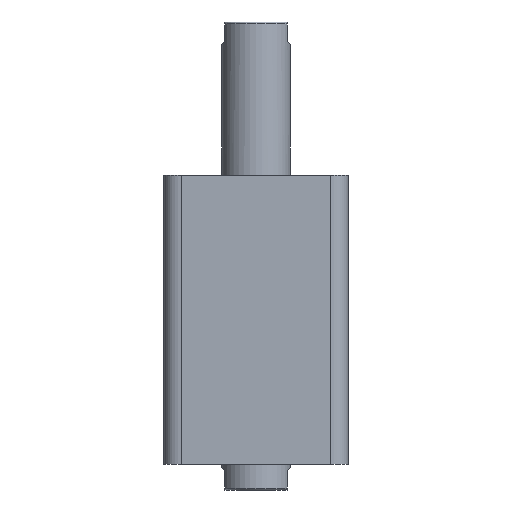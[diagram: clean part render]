
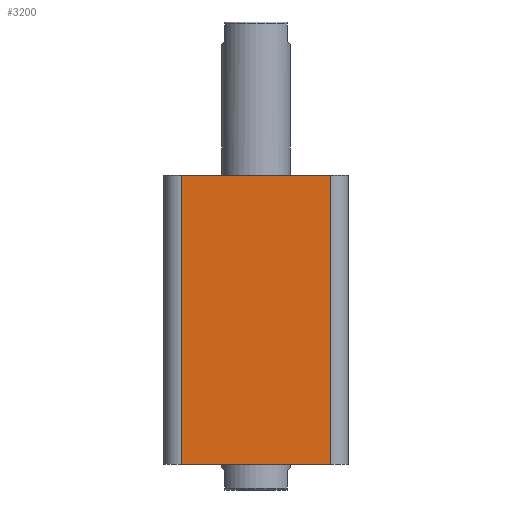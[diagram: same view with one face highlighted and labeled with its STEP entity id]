
A CAD part, front view. The second image highlights one B-rep face of the part: STEP entity #3200.
In plain terms, the highlighted planar face has unit normal (0, -1, 0).
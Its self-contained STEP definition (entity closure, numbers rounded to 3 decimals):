
#42 = VERTEX_POINT ( 'NONE', #68 ) ;
#56 = EDGE_CURVE ( 'NONE', #473, #431, #1359, .T. ) ;
#58 = EDGE_CURVE ( 'NONE', #42, #473, #1366, .T. ) ;
#68 = CARTESIAN_POINT ( 'NONE',  ( -38., -47., 0. ) ) ;
#79 = DIRECTION ( 'NONE',  ( 0., 0., 1. ) ) ;
#86 = CARTESIAN_POINT ( 'NONE',  ( 38., -47., 147. ) ) ;
#90 = DIRECTION ( 'NONE',  ( 1., 0., 0. ) ) ;
#91 = CARTESIAN_POINT ( 'NONE',  ( -47., -47., 0. ) ) ;
#166 = CARTESIAN_POINT ( 'NONE',  ( 38., -47., 147. ) ) ;
#192 = CARTESIAN_POINT ( 'NONE',  ( -38., -47., 147. ) ) ;
#244 = CARTESIAN_POINT ( 'NONE',  ( 38., -47., 0. ) ) ;
#431 = VERTEX_POINT ( 'NONE', #166 ) ;
#444 = VERTEX_POINT ( 'NONE', #192 ) ;
#473 = VERTEX_POINT ( 'NONE', #244 ) ;
#768 = AXIS2_PLACEMENT_3D ( 'NONE', #2703, #2710, #2711 ) ;
#911 = EDGE_CURVE ( 'NONE', #444, #42, #1582, .T. ) ;
#937 = EDGE_CURVE ( 'NONE', #444, #431, #1616, .T. ) ;
#1069 = EDGE_LOOP ( 'NONE', ( #1907, #1908, #1909, #1910 ) ) ;
#1359 = LINE ( 'NONE', #86, #1367 ) ;
#1366 = LINE ( 'NONE', #91, #1370 ) ;
#1367 = VECTOR ( 'NONE', #79, 1000. ) ;
#1370 = VECTOR ( 'NONE', #90, 1000. ) ;
#1582 = LINE ( 'NONE', #2340, #1586 ) ;
#1586 = VECTOR ( 'NONE', #2335, 1000. ) ;
#1616 = LINE ( 'NONE', #2406, #1618 ) ;
#1618 = VECTOR ( 'NONE', #2407, 1000. ) ;
#1709 = FACE_OUTER_BOUND ( 'NONE', #1069, .T. ) ;
#1907 = ORIENTED_EDGE ( 'NONE', *, *, #937, .F. ) ;
#1908 = ORIENTED_EDGE ( 'NONE', *, *, #911, .T. ) ;
#1909 = ORIENTED_EDGE ( 'NONE', *, *, #58, .T. ) ;
#1910 = ORIENTED_EDGE ( 'NONE', *, *, #56, .T. ) ;
#2335 = DIRECTION ( 'NONE',  ( 0., 0., -1. ) ) ;
#2340 = CARTESIAN_POINT ( 'NONE',  ( -38., -47., 147. ) ) ;
#2406 = CARTESIAN_POINT ( 'NONE',  ( -47., -47., 147. ) ) ;
#2407 = DIRECTION ( 'NONE',  ( 1., 0., 0. ) ) ;
#2703 = CARTESIAN_POINT ( 'NONE',  ( -47., -47., 147. ) ) ;
#2709 = PLANE ( 'NONE',  #768 ) ;
#2710 = DIRECTION ( 'NONE',  ( 0., 1., 0. ) ) ;
#2711 = DIRECTION ( 'NONE',  ( 0., 0., 1. ) ) ;
#3200 = ADVANCED_FACE ( 'NONE', ( #1709 ), #2709, .F. ) ;
